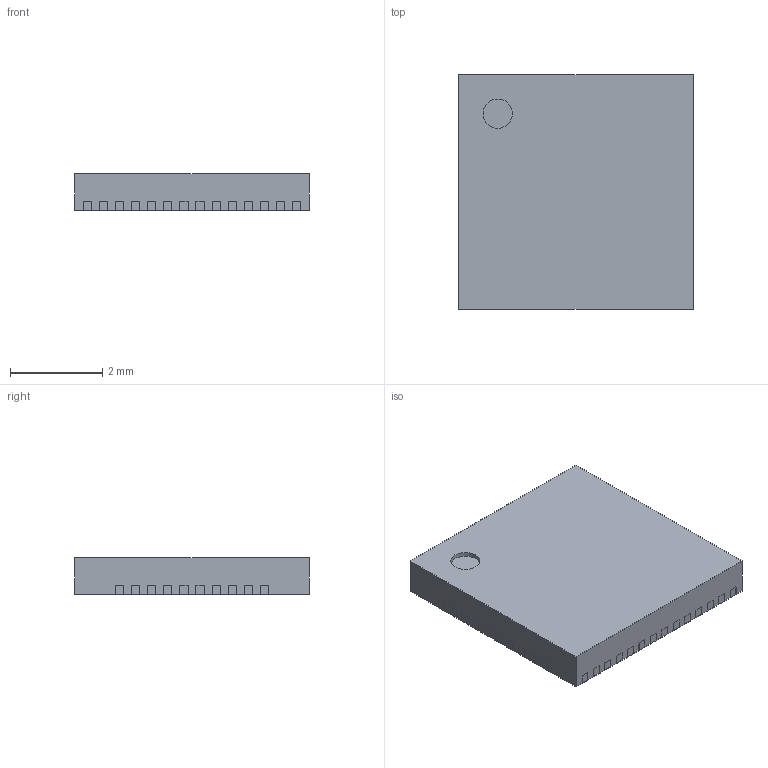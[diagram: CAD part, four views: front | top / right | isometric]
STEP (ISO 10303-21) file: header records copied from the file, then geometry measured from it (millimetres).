
FILE_DESCRIPTION(('Open CASCADE Model'),'2;1');
FILE_NAME('Open CASCADE Shape Model','2025-09-03T10:46:38',('Author'),( 'Open CASCADE'),'Open CASCADE STEP processor 7.5','Open CASCADE 7.5' ,'Unknown');
FILE_SCHEMA(('AUTOMOTIVE_DESIGN { 1 0 10303 214 1 1 1 1 }'));
Length unit declared in the file: millimetre
Products named in the file (7): QFN35P500X500X80_HS-49N.step; Open CASCADE STEP translator 7.5 17.1; Body; Open CASCADE STEP translator 7.5 17.2.1; Thermal Shape; Pin Shape; Open CASCADE STEP translator 7.5 17.4.1
Assembly tree (53 placements, depth 3):
  QFN35P500X500X80_HS-49N.step
    Open CASCADE STEP translator 7.5 17.1
    Body
      Open CASCADE STEP translator 7.5 17.2.1
    Thermal Shape
    Pin Shape  x48
      Open CASCADE STEP translator 7.5 17.4.1
Bounding box: 5.1 x 5.1 x 0.8 mm (x, y, z)
Volume: 20.8 mm3; surface area: 106.6 mm2
Topology: 50 solids, 51 shells, 688 faces, 1375 edges, 789 vertices
Faces by surface type: plane 687, cylinder 1
Full cylindrical faces by diameter (mm): 0.637 x1
Entity records: 2041 total; most frequent: DIRECTION 345, CARTESIAN_POINT 299, LINE 168, VECTOR 168, ORIENTED_EDGE 117, PCURVE 117, DEFINITIONAL_REPRESENTATION 117, AXIS2_PLACEMENT_3D 87
